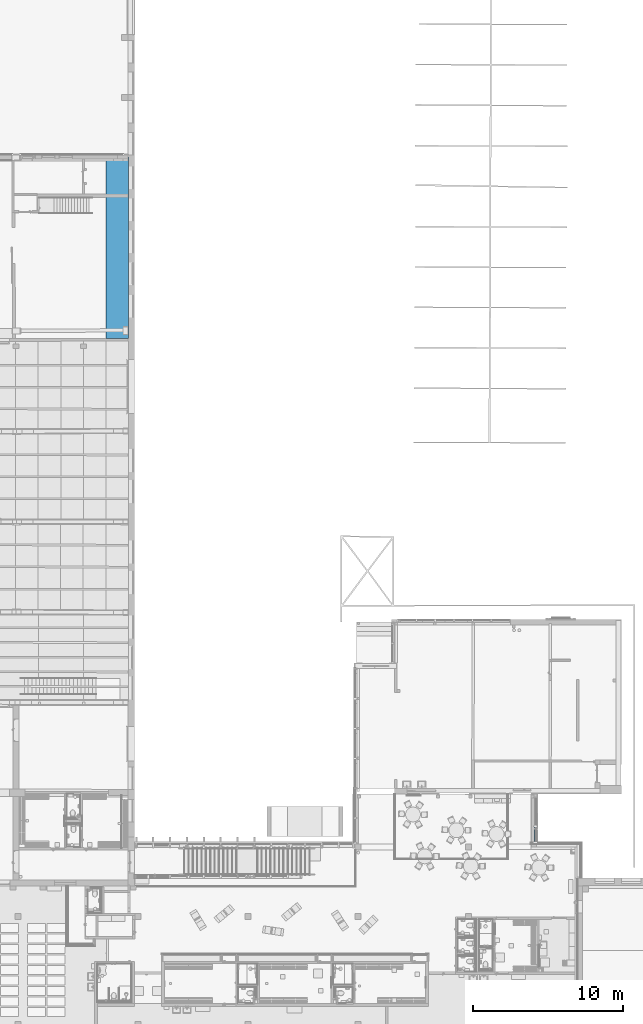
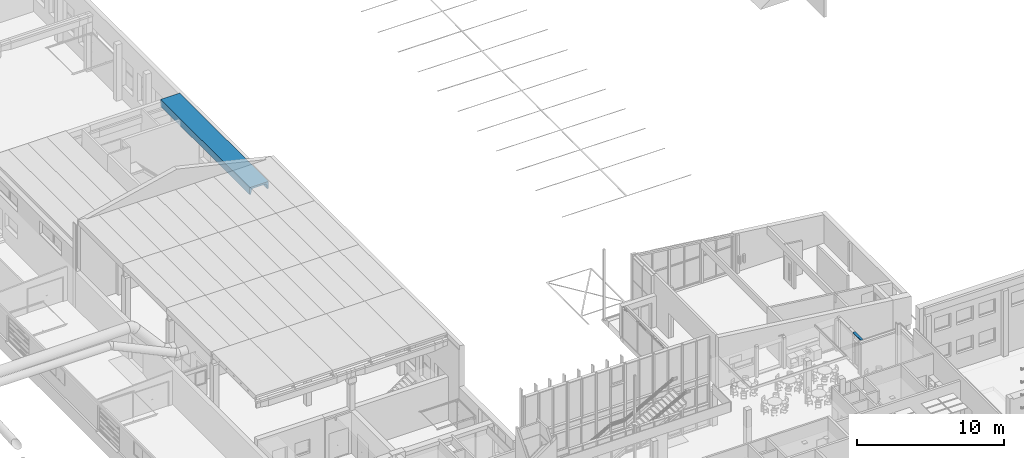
# One storey, part 62 of 301: 1 beam, 1 member, 1 element without a shape of its own.
"""IFC2X3 building model written with IfcOpenShell, lengths in millimetres."""

from ifc_helpers import new_model, entity, si_unit, converted_unit, derived_unit, money_unit, direction, frame, origin_with_axes, place, context, subcontext, project, spatial, faceted_brep, material, type_object, element, aggregate, save


model = new_model("IFC2X3")

# Units and contexts
model_context = context("Model", 3, precision=0.01, world=origin_with_axes(), true_north=direction((0.0, 1.0)))
body_context = subcontext(model_context, "Body", "Model", "MODEL_VIEW")
ifc_project = project(units=[si_unit("LENGTHUNIT", "METRE", prefix="MILLI"), si_unit("AREAUNIT", "SQUARE_METRE"), si_unit("VOLUMEUNIT", "CUBIC_METRE"), converted_unit("PLANEANGLEUNIT", "DEGREE", entity("IfcPlaneAngleMeasure", 0.0174532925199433), si_unit("PLANEANGLEUNIT", "RADIAN"), dimensions=[0, 0, 0, 0, 0, 0, 0]), money_unit("EUR"), converted_unit("TIMEUNIT", "Year", entity("IfcTimeMeasure", 31557600.0), si_unit("TIMEUNIT", "SECOND"), dimensions=[0, 0, 1, 0, 0, 0, 0]), si_unit("MASSUNIT", "GRAM", prefix="KILO"), si_unit("THERMODYNAMICTEMPERATUREUNIT", "DEGREE_CELSIUS"), si_unit("LUMINOUSINTENSITYUNIT", "LUMEN"), si_unit("ENERGYUNIT", "JOULE", prefix="MEGA"), derived_unit("THERMALCONDUCTANCEUNIT", [(si_unit("POWERUNIT", "WATT"), 1), (si_unit("LENGTHUNIT", "METRE"), -1), (si_unit("THERMODYNAMICTEMPERATUREUNIT", "KELVIN"), -1)]), derived_unit("SPECIFICHEATCAPACITYUNIT", [(si_unit("ENERGYUNIT", "JOULE"), 1), (si_unit("MASSUNIT", "GRAM", prefix="KILO"), -1), (si_unit("THERMODYNAMICTEMPERATUREUNIT", "KELVIN"), -1)]), derived_unit("MASSDENSITYUNIT", [(si_unit("MASSUNIT", "GRAM", prefix="KILO"), 1), (si_unit("VOLUMEUNIT", "CUBIC_METRE"), -1)])], contexts=[model_context])

# Site, building, storey
site_placement = place(None, frame((0.0, 0.0, 8650.0), z_axis=(0.0, 0.0, 1.0), x_axis=(1.0, 0.0, 0.0)))
site = spatial("IfcSite", under=ifc_project, at=site_placement, Name="43301:001:0844", CompositionType="ELEMENT")
building_placement = place(site_placement, origin_with_axes())
building = spatial("IfcBuilding", under=site, at=building_placement, Name="Kuressaare Ametikooli tuulikute mehaanikute õppekorpus", CompositionType="ELEMENT")
storey_placement = place(building_placement, origin_with_axes())
storey = spatial("IfcBuildingStorey", under=building, at=storey_placement, Name="1.korrus", CompositionType="ELEMENT", Elevation=0.0)

# Curtain wall, member
curtain_wall_type = type_object("IfcCurtainWallType", Name="Curtain Wall Type", PredefinedType="NOTDEFINED")
curtain_wall_placement = place(storey_placement, frame((130440.0312746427, 29344.34887802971, 34.99990943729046), z_axis=(0.0, 0.0, 1.0), x_axis=(1.0, 0.0, 0.0)))
curtain_wall = element("IfcCurtainWall", 1, at=curtain_wall_placement, inside=storey, type_object=curtain_wall_type, Name="KF-2")
ifc_material_1 = material(Name="Aluminium")
member_type = type_object("IfcMemberType", Name="Boundary Frame 50 x 200", PredefinedType="NOTDEFINED")
member_placement = place(curtain_wall_placement, frame((0.9667074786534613, -644.5809648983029, 2610.000036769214), z_axis=(-0.00149974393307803, 0.9999988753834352, 0.0), x_axis=(0.0, 0.0, -1.0)))
member = element("IfcMember", 2, at=member_placement, type_object=member_type, material=ifc_material_1, context=body_context, shape_type="Brep", body=[
    faceted_brep([(4.999999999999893, 19.99999999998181, 1074.302816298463), (24.99999999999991, 19.99999999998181, 1074.302816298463), (24.99999999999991, 159.9999999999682, 1074.302816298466), (-24.99999999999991, 159.9999999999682, 1074.302816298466), (-24.99999999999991, -40.00000000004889, 1074.302816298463), (24.99999999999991, -40.00000000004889, 1074.302816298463), (24.99999999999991, -20.00000000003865, 1074.302816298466), (4.999999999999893, -20.00000000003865, 1074.302816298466), (4.999999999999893, 19.99999999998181, 5.000000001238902), (24.99999999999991, 19.99999999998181, 25.00000000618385), (24.99999999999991, 159.9999999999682, 25.00000000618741), (-24.99999999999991, 159.9999999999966, -25.00000000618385), (-24.99999999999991, -39.99999999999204, -25.00000000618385), (24.99999999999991, -40.00000000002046, 25.0000000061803), (24.99999999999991, -20.00000000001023, 25.0000000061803), (4.999999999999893, -20.00000000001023, 5.00000000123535)], [[[0, 1, 2, 3, 4, 5, 6, 7]], [[0, 8, 9, 1]], [[9, 10, 2, 1]], [[2, 10, 11, 3]], [[3, 11, 12, 4]], [[4, 12, 13, 5]], [[6, 5, 13, 14]], [[14, 15, 7, 6]], [[7, 15, 8, 0]], [[8, 15, 14, 13, 12, 11, 10, 9]]]),
])
aggregate(curtain_wall, [member])

# Beam
ifc_material_2 = material(Name="GENEERILINE - KONSTRUKTRIOON")
beam_type = type_object("IfcBeamType", Name="Precast Double Tee 6 1500 x 575", PredefinedType="NOTDEFINED")
beam_placement = place(storey_placement, frame((102505.8863780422, 74407.22557386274, 4910.0), z_axis=(0.0, 0.0, 1.0), x_axis=(-1.0, 0.0, 0.0)))
element("IfcBeam", 3, at=beam_placement, inside=storey, type_object=beam_type, material=ifc_material_2, context=body_context, shape_type="Brep", body=[
    faceted_brep([(-750.0, 0.0, -575.0000000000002), (-750.0, 12088.88165257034, -575.0000000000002), (-640.1488631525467, 12088.88165257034, -575.0000000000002), (-640.1488631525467, 0.0, -575.0000000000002), (-750.0, 0.0, 0.0), (-750.0, 12088.88165257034, 0.0), (750.0, 12088.88165257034, 0.0), (750.0, 12088.88165257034, -575.0000000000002), (633.4880933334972, 12088.88165257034, -575.0000000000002), (586.6738948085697, 12088.88165257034, -220.7859401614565), (574.4732175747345, 12088.88165257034, -198.1213013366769), (557.4586532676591, 12088.88165257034, -178.8068772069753), (536.5135530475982, 12088.88165257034, -163.8454215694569), (512.7253310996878, 12088.88165257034, -154.013693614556), (487.3290089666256, 12088.88165257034, -149.822130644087), (-498.145265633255, 12088.88165257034, -149.8234995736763), (-523.1912441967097, 12088.88165257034, -154.8052653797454), (-546.6267368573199, 12088.88165257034, -164.9490672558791), (-567.4009225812, 12088.88165257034, -179.80006857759), (-584.58231033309, 12088.88165257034, -198.692367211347), (-597.4005060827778, 12088.88165257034, -220.7788538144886), (-597.4005060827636, 0.0, -220.7788538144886), (-584.58231033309, 0.0, -198.692367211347), (-567.4009225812, 0.0, -179.80006857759), (-546.6267368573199, 0.0, -164.9490672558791), (-523.1912441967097, 0.0, -154.8052653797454), (-498.145265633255, 0.0, -149.8234995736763), (487.3290089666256, 0.0, -149.822130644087), (512.7253310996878, 0.0, -154.013693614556), (536.5135530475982, 0.0, -163.8454215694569), (557.4586532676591, 0.0, -178.8068772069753), (574.4732175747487, 0.0, -198.1213013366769), (586.6738948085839, 0.0, -220.7859401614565), (633.4880933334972, 0.0, -575.0000000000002), (750.0, 0.0, -575.0000000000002), (750.0, 0.0, 0.0)], [[[0, 1, 2, 3]], [[4, 5, 1, 0]], [[2, 1, 5, 6, 7, 8, 9, 10, 11, 12, 13, 14, 15, 16, 17, 18, 19, 20]], [[3, 2, 20, 21]], [[4, 0, 3, 21, 22, 23, 24, 25, 26, 27, 28, 29, 30, 31, 32, 33, 34, 35]], [[35, 6, 5, 4]], [[34, 7, 6, 35]], [[33, 8, 7, 34]], [[32, 9, 8, 33]], [[31, 10, 9, 32]], [[30, 11, 10, 31]], [[29, 12, 11, 30]], [[28, 13, 12, 29]], [[27, 14, 13, 28]], [[26, 15, 14, 27]], [[25, 16, 15, 26]], [[24, 17, 16, 25]], [[23, 18, 17, 24]], [[22, 19, 18, 23]], [[21, 20, 19, 22]]]),
])

save(model, "model.ifc")
